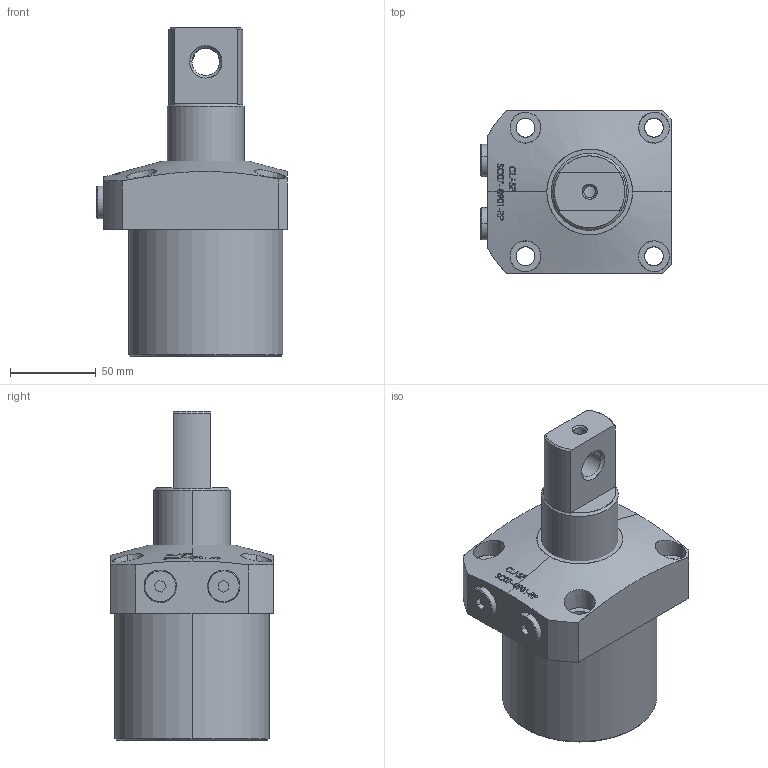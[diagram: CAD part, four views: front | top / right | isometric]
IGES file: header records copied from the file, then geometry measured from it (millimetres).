
Start section: SolidWorks IGES file using analytic representation for surfaces
Global section: file name: D:\karuppas\Clasp\3D model\SWING CYLINDER\Top Mounting swing cylinder-P type\SC07-0901-RP\SC07-0901-RP.IGS; native system: SolidWorks 2017; preprocessor: SolidWorks 2017; author: pc; date: 220708.222902; units: millimetre
Bounding box: 111 x 95 x 192 mm (x, y, z)
Surface area: 78577.6 mm2 (no closed solid volume)
Topology: 0 solids, 0 shells, 327 faces, 5847 edges, 5847 vertices
Faces by surface type: bspline 244, revolution 83
